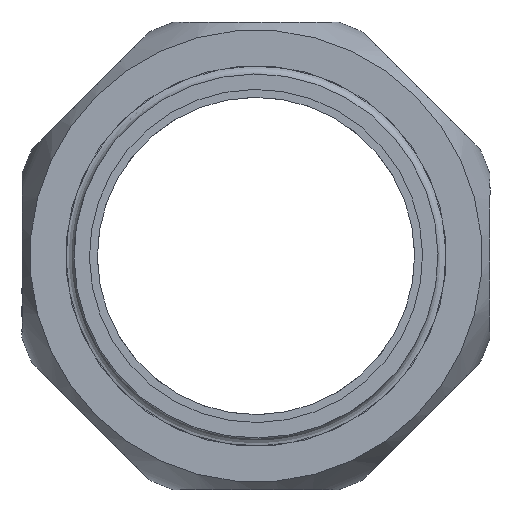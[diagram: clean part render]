
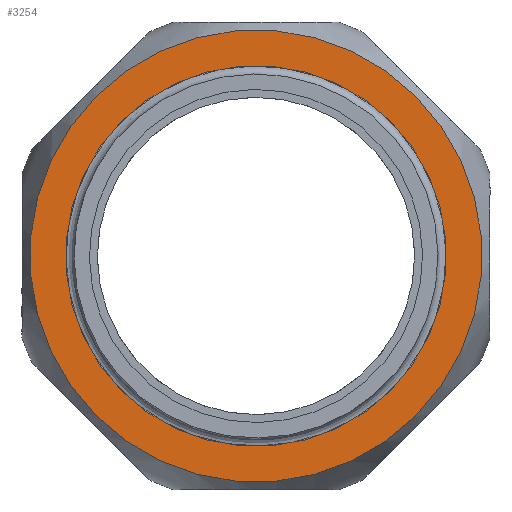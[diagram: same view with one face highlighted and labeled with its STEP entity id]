
A CAD part, left-side view. The second image highlights one B-rep face of the part: STEP entity #3254.
In plain terms, the highlighted planar face has unit normal (-1, 0, 0) as drawn and (1, 0, 0) by its records, which use the part's own axes.
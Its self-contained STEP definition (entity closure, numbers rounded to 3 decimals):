
#3220=CARTESIAN_POINT('',(22.0,28.5,0.0));
#3221=VERTEX_POINT('',#3220);
#3222=CARTESIAN_POINT('',(22.0,0.0,0.0));
#3223=DIRECTION('',(1.0,0.0,0.0));
#3224=DIRECTION('',(0.0,1.0,0.0));
#3225=AXIS2_PLACEMENT_3D('',#3222,#3223,#3224);
#3226=CIRCLE('',#3225,28.5);
#3227=EDGE_CURVE('',#3221,#3221,#3226,.T.);
#3235=CARTESIAN_POINT('',(22.0,26.25,0.0));
#3236=DIRECTION('',(1.0,0.0,0.0));
#3237=DIRECTION('',(0.0,0.0,-1.0));
#3238=AXIS2_PLACEMENT_3D('',#3235,#3236,#3237);
#3239=PLANE('',#3238);
#3240=ORIENTED_EDGE('',*,*,#3227,.T.);
#3241=EDGE_LOOP('',(#3240));
#3242=FACE_OUTER_BOUND('',#3241,.T.);
#3243=CARTESIAN_POINT('',(22.0,24.,0.0));
#3244=VERTEX_POINT('',#3243);
#3245=CARTESIAN_POINT('',(22.0,0.0,0.0));
#3246=DIRECTION('',(1.0,0.0,0.0));
#3247=DIRECTION('',(0.0,1.0,0.0));
#3248=AXIS2_PLACEMENT_3D('',#3245,#3246,#3247);
#3249=CIRCLE('',#3248,24.);
#3250=EDGE_CURVE('',#3244,#3244,#3249,.T.);
#3251=ORIENTED_EDGE('',*,*,#3250,.F.);
#3252=EDGE_LOOP('',(#3251));
#3253=FACE_BOUND('',#3252,.T.);
#3254=ADVANCED_FACE('',(#3242,#3253),#3239,.T.);
